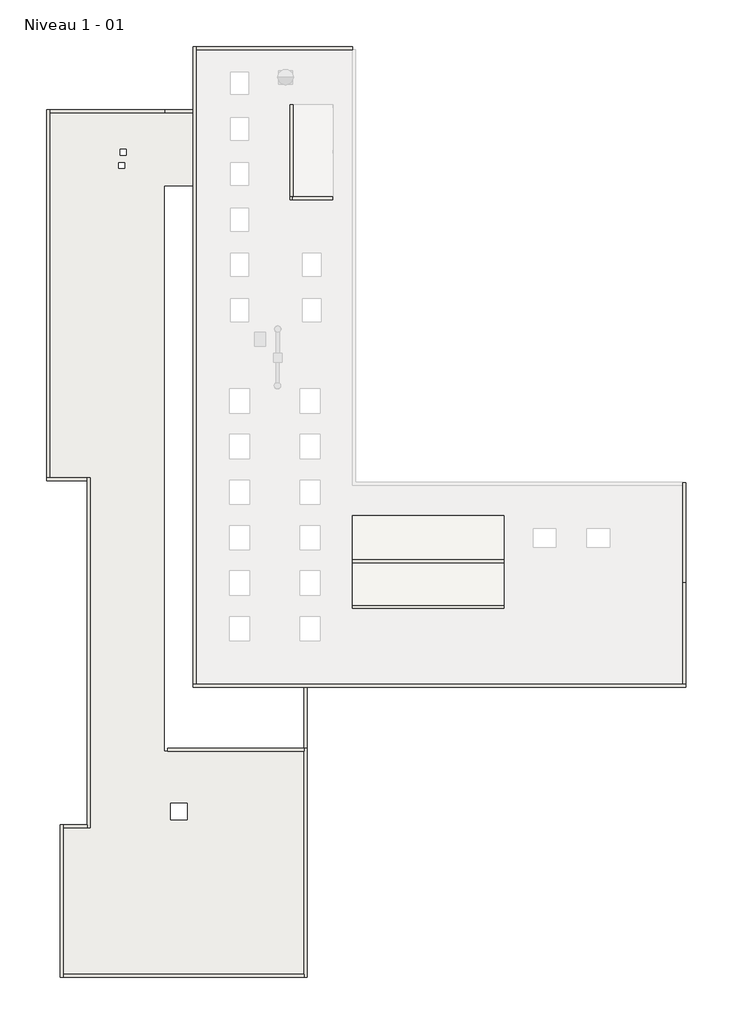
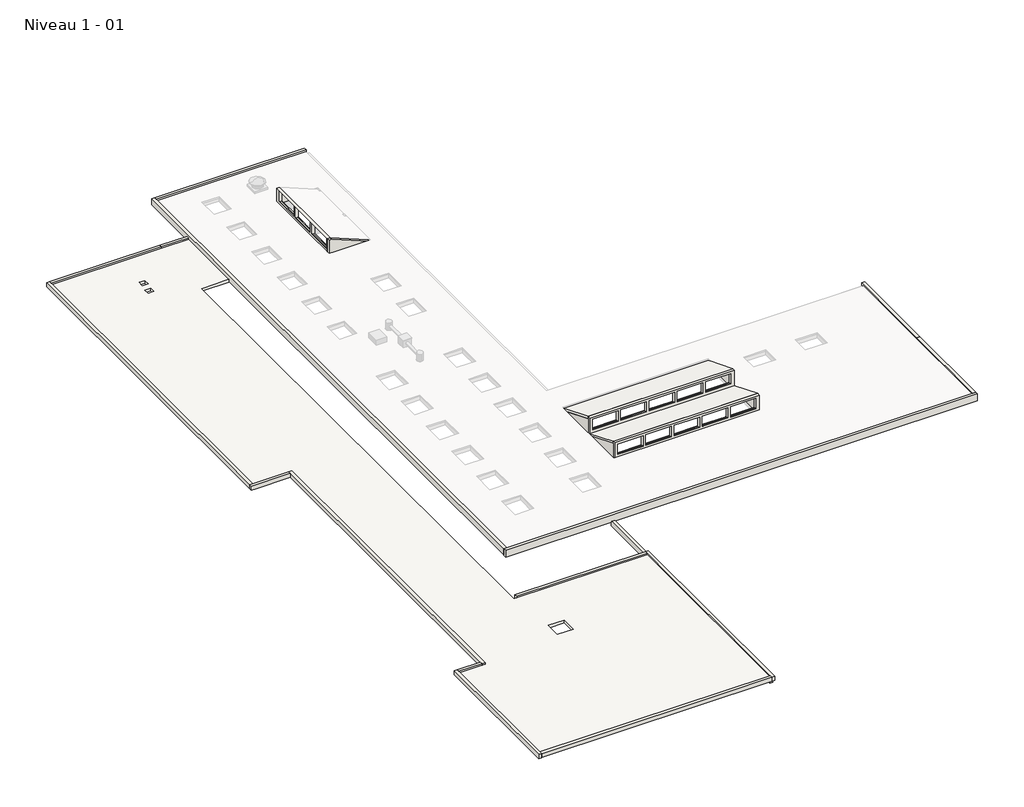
# One storey, part 1 of 3: 25 walls, 3 slabs.
"""IFC4 building model written with IfcOpenShell, lengths in millimetres."""

from ifc_helpers import new_model, si_unit, frame, origin, place, context, project, spatial, polyline, outline, extrude, faceted_brep, element, save

model = new_model("IFC4")

# Units and contexts
model_context = context("Model", 3, world=origin())
ifc_project = project(units=[si_unit("LENGTHUNIT", "METRE", prefix="MILLI")], contexts=[model_context])

# Site, building, storey
site = spatial("IfcSite", under=ifc_project)
building = spatial("IfcBuilding", under=site)
storey = spatial("IfcBuildingStorey", under=building, Name="Niveau 1 - 01", Elevation=3953.3082742)

# Slabs
placement = place(None, origin())
element("IfcSlab", 1, ObjectType="Dalle béton 200mm", at=placement, inside=storey, context=model_context, shape_type="SweptSolid", body=[
    extrude(outline(polyline([(-29023.0967815, -38759.0543071), (-29023.0967815, -53501.1523244), (-44941.7005236, -53501.1523244), (-44941.7005236, -43817.1378766), (-43142.9002047, -43817.1378746), (-43142.9002047, -20666.6974188), (-45839.2374821, -20666.6974188), (-45839.2374821, 3434.6445068), (-36343.9891745, 3434.6445068), (-36343.9891745, -1391.0), (-38243.9891749, -1391.0), (-38243.9891749, -38759.0543071), (-29023.0967815, -38759.0543071)]), holes=[polyline([(-37834.5797272, -42192.9977645), (-37834.5797272, -43292.9977645), (-36734.5797272, -43292.9977645), (-36734.5797272, -42192.9977645), (-37834.5797272, -42192.9977645)]), polyline([(-41152.5123026, 1018.8568888), (-41152.5123026, 628.8568889), (-40762.5123025, 628.8568889), (-40762.5123025, 1018.8568888), (-41152.5123026, 1018.8568888)]), polyline([(-41252.5123026, 158.8568888), (-41252.5123026, -231.1431111), (-40862.5123025, -231.1431111), (-40862.5123025, 158.8568888), (-41252.5123026, 158.8568888)])]), frame((0.0, 0.0, 3653.3082742), z_axis=(0.0, 0.0, 1.0), x_axis=(1.0, 0.0, 0.0)), (0.0, 0.0, 1.0), 200.0),
])
element("IfcSlab", 2, ObjectType="Béton sur place 150mm", at=placement, inside=storey, context=model_context, shape_type="Brep", body=[
    faceted_brep([(-15797.6697002, -26298.571453, 3844.3617374), (-15797.6697002, -26568.2235942, 3953.3082742), (-15797.6697002, -29088.571453, 4971.5949074), (-15997.6697002, -29088.571453, 4971.5949074), (-25593.9891728, -29088.571453, 4971.5949074), (-25793.9891728, -29088.571453, 4971.5949074), (-25793.9891728, -26568.2235942, 3953.3082742), (-25793.9891728, -26298.571453, 3844.3617374), (-15797.6697002, -26298.571453, 4006.1419488), (-25793.9891728, -26298.571453, 4006.1419488), (-25793.9891728, -29088.571453, 5133.3751188), (-15797.6697002, -29088.571453, 5133.3751188)], [[[0, 1, 2, 3, 4, 5, 6, 7]], [[8, 9, 10, 11]], [[2, 1, 0, 8, 11]], [[5, 4, 3, 2, 11, 10]], [[7, 6, 5, 10, 9]], [[0, 7, 9, 8]]]),
])
element("IfcSlab", 3, ObjectType="Béton sur place 150mm", at=placement, inside=storey, context=model_context, shape_type="Brep", body=[
    faceted_brep([(-15797.6697002, -23168.571453, 3787.7980657), (-15797.6697002, -23578.2235942, 3953.3082742), (-15797.6697002, -26098.571453, 4971.5949074), (-15997.6697002, -26098.571453, 4971.5949074), (-25593.9891728, -26098.571453, 4971.5949074), (-25793.9891728, -26098.571453, 4971.5949074), (-25793.9891728, -23578.2235942, 3953.3082742), (-25793.9891728, -23168.571453, 3787.7980657), (-15797.6697002, -23168.571453, 3949.5782771), (-25793.9891728, -23168.571453, 3949.5782771), (-25793.9891728, -23177.8035198, 3953.3082742), (-25793.9891728, -26098.571453, 5133.3751188), (-15797.6697002, -26098.571453, 5133.3751188), (-15797.6697002, -23177.8035198, 3953.3082742)], [[[0, 1, 2, 3, 4, 5, 6, 7]], [[8, 9, 10, 11, 12, 13]], [[2, 1, 0, 8, 13, 12]], [[5, 4, 3, 2, 12, 11]], [[7, 6, 5, 11, 10, 9]], [[0, 7, 9, 8]]]),
])

# Walls
element("IfcWall", 4, ObjectType="Ext. Voile BA 200", at=placement, inside=storey, context=model_context, shape_type="Brep", body=[
    faceted_brep([(-25793.9891728, -29288.571453, 3953.3082742), (-15797.6697002, -29288.571453, 3953.3082742), (-15797.6697002, -29288.571453, 5132.7489541), (-25793.9891728, -29288.571453, 5132.7489541), (-23833.9891728, -29288.571453, 4971.8727639), (-23833.9891728, -29288.571453, 4221.8727639), (-25583.9891728, -29288.571453, 4221.8727639), (-25583.9891728, -29288.571453, 4971.8727639), (-21883.9891728, -29288.571453, 4971.8727639), (-21883.9891728, -29288.571453, 4221.8727639), (-23633.9891728, -29288.571453, 4221.8727639), (-23633.9891728, -29288.571453, 4971.8727639), (-19933.9891728, -29288.571453, 4971.8727639), (-19933.9891728, -29288.571453, 4221.8727639), (-21683.9891728, -29288.571453, 4221.8727639), (-21683.9891728, -29288.571453, 4971.8727639), (-17783.9891728, -29288.571453, 4221.8727639), (-17783.9891728, -29288.571453, 4971.8727639), (-16033.9891728, -29288.571453, 4971.8727639), (-16033.9891728, -29288.571453, 4221.8727639), (-19733.9891728, -29288.571453, 4221.8727639), (-19733.9891728, -29288.571453, 4971.8727639), (-17983.9891728, -29288.571453, 4971.8727639), (-17983.9891728, -29288.571453, 4221.8727639), (-15797.6697002, -29088.571453, 3953.3082742), (-15997.6697002, -29088.571453, 3953.3082742), (-25593.9891728, -29088.571453, 3953.3082742), (-25793.9891728, -29088.571453, 3953.3082742), (-25793.9891728, -29088.571453, 4971.5949074), (-25793.9891728, -29088.571453, 5132.7489541), (-15797.6697002, -29088.571453, 5132.7489541), (-15797.6697002, -29088.571453, 4971.5949074), (-23833.9891728, -29088.571453, 4201.8727639), (-23833.9891728, -29088.571453, 4971.8727639), (-25583.9891728, -29088.571453, 4971.8727639), (-25583.9891728, -29088.571453, 4201.8727639), (-21883.9891728, -29088.571453, 4201.8727639), (-21883.9891728, -29088.571453, 4971.8727639), (-23633.9891728, -29088.571453, 4971.8727639), (-23633.9891728, -29088.571453, 4201.8727639), (-19933.9891728, -29088.571453, 4201.8727639), (-19933.9891728, -29088.571453, 4971.8727639), (-21683.9891728, -29088.571453, 4971.8727639), (-21683.9891728, -29088.571453, 4201.8727639), (-17783.9891728, -29088.571453, 4971.8727639), (-17783.9891728, -29088.571453, 4201.8727639), (-16033.9891728, -29088.571453, 4201.8727639), (-16033.9891728, -29088.571453, 4971.8727639), (-19733.9891728, -29088.571453, 4971.8727639), (-19733.9891728, -29088.571453, 4201.8727639), (-17983.9891728, -29088.571453, 4201.8727639), (-17983.9891728, -29088.571453, 4971.8727639), (-23833.9891728, -29128.571453, 4201.8727639), (-23833.9891728, -29128.571453, 4186.8727639), (-23833.9891728, -29258.571453, 4186.8727639), (-23833.9891728, -29258.571453, 4221.8727639), (-25583.9891728, -29258.571453, 4221.8727639), (-25583.9891728, -29258.571453, 4186.8727639), (-25583.9891728, -29128.571453, 4186.8727639), (-25583.9891728, -29128.571453, 4201.8727639), (-21883.9891728, -29128.571453, 4201.8727639), (-21883.9891728, -29128.571453, 4186.8727639), (-21883.9891728, -29258.571453, 4186.8727639), (-21883.9891728, -29258.571453, 4221.8727639), (-23633.9891728, -29258.571453, 4221.8727639), (-23633.9891728, -29258.571453, 4186.8727639), (-23633.9891728, -29128.571453, 4186.8727639), (-23633.9891728, -29128.571453, 4201.8727639), (-19933.9891728, -29128.571453, 4201.8727639), (-19933.9891728, -29128.571453, 4186.8727639), (-19933.9891728, -29258.571453, 4186.8727639), (-19933.9891728, -29258.571453, 4221.8727639), (-21683.9891728, -29258.571453, 4221.8727639), (-21683.9891728, -29258.571453, 4186.8727639), (-21683.9891728, -29128.571453, 4186.8727639), (-21683.9891728, -29128.571453, 4201.8727639), (-16033.9891728, -29128.571453, 4201.8727639), (-16033.9891728, -29128.571453, 4186.8727639), (-16033.9891728, -29258.571453, 4186.8727639), (-16033.9891728, -29258.571453, 4221.8727639), (-17783.9891728, -29258.571453, 4221.8727639), (-17783.9891728, -29258.571453, 4186.8727639), (-17783.9891728, -29128.571453, 4186.8727639), (-17783.9891728, -29128.571453, 4201.8727639), (-17983.9891728, -29128.571453, 4201.8727639), (-17983.9891728, -29128.571453, 4186.8727639), (-17983.9891728, -29258.571453, 4186.8727639), (-17983.9891728, -29258.571453, 4221.8727639), (-19733.9891728, -29258.571453, 4221.8727639), (-19733.9891728, -29258.571453, 4186.8727639), (-19733.9891728, -29128.571453, 4186.8727639), (-19733.9891728, -29128.571453, 4201.8727639)], [[[0, 1, 2, 3], [4, 5, 6, 7], [8, 9, 10, 11], [12, 13, 14, 15], [16, 17, 18, 19], [20, 21, 22, 23]], [[24, 25, 26, 27, 28, 29, 30, 31], [32, 33, 34, 35], [36, 37, 38, 39], [40, 41, 42, 43], [44, 45, 46, 47], [48, 49, 50, 51]], [[1, 0, 27, 26, 25, 24]], [[3, 2, 30, 29]], [[0, 3, 29, 28, 27]], [[2, 1, 24, 31, 30]], [[4, 33, 32, 52, 53, 54, 55, 5]], [[6, 56, 57, 58, 59, 35, 34, 7]], [[5, 55, 56, 6]], [[55, 54, 57, 56]], [[54, 53, 58, 57]], [[53, 52, 59, 58]], [[52, 32, 35, 59]], [[33, 4, 7, 34]], [[8, 37, 36, 60, 61, 62, 63, 9]], [[10, 64, 65, 66, 67, 39, 38, 11]], [[9, 63, 64, 10]], [[63, 62, 65, 64]], [[62, 61, 66, 65]], [[61, 60, 67, 66]], [[60, 36, 39, 67]], [[37, 8, 11, 38]], [[12, 41, 40, 68, 69, 70, 71, 13]], [[14, 72, 73, 74, 75, 43, 42, 15]], [[13, 71, 72, 14]], [[71, 70, 73, 72]], [[70, 69, 74, 73]], [[69, 68, 75, 74]], [[68, 40, 43, 75]], [[41, 12, 15, 42]], [[18, 47, 46, 76, 77, 78, 79, 19]], [[16, 80, 81, 82, 83, 45, 44, 17]], [[19, 79, 80, 16]], [[79, 78, 81, 80]], [[78, 77, 82, 81]], [[77, 76, 83, 82]], [[76, 46, 45, 83]], [[47, 18, 17, 44]], [[22, 51, 50, 84, 85, 86, 87, 23]], [[20, 88, 89, 90, 91, 49, 48, 21]], [[23, 87, 88, 20]], [[87, 86, 89, 88]], [[86, 85, 90, 89]], [[85, 84, 91, 90]], [[84, 50, 49, 91]], [[51, 22, 21, 48]]]),
])
element("IfcWall", 5, ObjectType="Ext. Voile BA 200", at=placement, inside=storey, context=model_context, shape_type="SweptSolid", body=[
    extrude(outline(polyline([(-29088.571453, 3953.3082742), (-29088.571453, 4971.5949074), (-26568.2235942, 3953.3082742), (-29088.571453, 3953.3082742)])), frame((-15997.6697002, 0.0, 0.0), z_axis=(1.0, 0.0, 0.0), x_axis=(0.0, 1.0, 0.0)), (0.0, 0.0, 1.0), 200.0),
])
element("IfcWall", 6, ObjectType="Ext. Voile BA 200", at=placement, inside=storey, context=model_context, shape_type="SweptSolid", body=[
    extrude(outline(polyline([(-26568.2235942, 3953.3082742), (-29088.571453, 3953.3082742), (-29088.571453, 4971.5949074), (-26568.2235942, 3953.3082742)])), frame((-25793.9891728, 0.0, 0.0), z_axis=(1.0, 0.0, 0.0), x_axis=(0.0, 1.0, 0.0)), (0.0, 0.0, 1.0), 200.0),
])
element("IfcWall", 7, ObjectType="Ext. Voile BA 200", at=placement, inside=storey, context=model_context, shape_type="Brep", body=[
    faceted_brep([(-25793.9891728, -26298.571453, 3953.3082742), (-15797.6697002, -26298.571453, 3953.3082742), (-15797.6697002, -26298.571453, 5132.7489541), (-25793.9891728, -26298.571453, 5132.7489541), (-23833.9891728, -26298.571453, 4971.8727639), (-23833.9891728, -26298.571453, 4221.8727639), (-25583.9891728, -26298.571453, 4221.8727639), (-25583.9891728, -26298.571453, 4971.8727639), (-21883.9891728, -26298.571453, 4971.8727639), (-21883.9891728, -26298.571453, 4221.8727639), (-23633.9891728, -26298.571453, 4221.8727639), (-23633.9891728, -26298.571453, 4971.8727639), (-19933.9891728, -26298.571453, 4971.8727639), (-19933.9891728, -26298.571453, 4221.8727639), (-21683.9891728, -26298.571453, 4221.8727639), (-21683.9891728, -26298.571453, 4971.8727639), (-17783.9891728, -26298.571453, 4221.8727639), (-17783.9891728, -26298.571453, 4971.8727639), (-16033.9891728, -26298.571453, 4971.8727639), (-16033.9891728, -26298.571453, 4221.8727639), (-19733.9891728, -26298.571453, 4221.8727639), (-19733.9891728, -26298.571453, 4971.8727639), (-17983.9891728, -26298.571453, 4971.8727639), (-17983.9891728, -26298.571453, 4221.8727639), (-15797.6697002, -26098.571453, 3953.3082742), (-15997.6697002, -26098.571453, 3953.3082742), (-25593.9891728, -26098.571453, 3953.3082742), (-25793.9891728, -26098.571453, 3953.3082742), (-25793.9891728, -26098.571453, 4971.5949074), (-25793.9891728, -26098.571453, 5132.7489541), (-15797.6697002, -26098.571453, 5132.7489541), (-15797.6697002, -26098.571453, 4971.5949074), (-23833.9891728, -26098.571453, 4201.8727639), (-23833.9891728, -26098.571453, 4971.8727639), (-25583.9891728, -26098.571453, 4971.8727639), (-25583.9891728, -26098.571453, 4201.8727639), (-21883.9891728, -26098.571453, 4201.8727639), (-21883.9891728, -26098.571453, 4971.8727639), (-23633.9891728, -26098.571453, 4971.8727639), (-23633.9891728, -26098.571453, 4201.8727639), (-19933.9891728, -26098.571453, 4201.8727639), (-19933.9891728, -26098.571453, 4971.8727639), (-21683.9891728, -26098.571453, 4971.8727639), (-21683.9891728, -26098.571453, 4201.8727639), (-17783.9891728, -26098.571453, 4971.8727639), (-17783.9891728, -26098.571453, 4201.8727639), (-16033.9891728, -26098.571453, 4201.8727639), (-16033.9891728, -26098.571453, 4971.8727639), (-19733.9891728, -26098.571453, 4971.8727639), (-19733.9891728, -26098.571453, 4201.8727639), (-17983.9891728, -26098.571453, 4201.8727639), (-17983.9891728, -26098.571453, 4971.8727639), (-23833.9891728, -26138.571453, 4201.8727639), (-23833.9891728, -26138.571453, 4186.8727639), (-23833.9891728, -26268.571453, 4186.8727639), (-23833.9891728, -26268.571453, 4221.8727639), (-25583.9891728, -26268.571453, 4221.8727639), (-25583.9891728, -26268.571453, 4186.8727639), (-25583.9891728, -26138.571453, 4186.8727639), (-25583.9891728, -26138.571453, 4201.8727639), (-21883.9891728, -26138.571453, 4201.8727639), (-21883.9891728, -26138.571453, 4186.8727639), (-21883.9891728, -26268.571453, 4186.8727639), (-21883.9891728, -26268.571453, 4221.8727639), (-23633.9891728, -26268.571453, 4221.8727639), (-23633.9891728, -26268.571453, 4186.8727639), (-23633.9891728, -26138.571453, 4186.8727639), (-23633.9891728, -26138.571453, 4201.8727639), (-19933.9891728, -26138.571453, 4201.8727639), (-19933.9891728, -26138.571453, 4186.8727639), (-19933.9891728, -26268.571453, 4186.8727639), (-19933.9891728, -26268.571453, 4221.8727639), (-21683.9891728, -26268.571453, 4221.8727639), (-21683.9891728, -26268.571453, 4186.8727639), (-21683.9891728, -26138.571453, 4186.8727639), (-21683.9891728, -26138.571453, 4201.8727639), (-16033.9891728, -26138.571453, 4201.8727639), (-16033.9891728, -26138.571453, 4186.8727639), (-16033.9891728, -26268.571453, 4186.8727639), (-16033.9891728, -26268.571453, 4221.8727639), (-17783.9891728, -26268.571453, 4221.8727639), (-17783.9891728, -26268.571453, 4186.8727639), (-17783.9891728, -26138.571453, 4186.8727639), (-17783.9891728, -26138.571453, 4201.8727639), (-17983.9891728, -26138.571453, 4201.8727639), (-17983.9891728, -26138.571453, 4186.8727639), (-17983.9891728, -26268.571453, 4186.8727639), (-17983.9891728, -26268.571453, 4221.8727639), (-19733.9891728, -26268.571453, 4221.8727639), (-19733.9891728, -26268.571453, 4186.8727639), (-19733.9891728, -26138.571453, 4186.8727639), (-19733.9891728, -26138.571453, 4201.8727639)], [[[0, 1, 2, 3], [4, 5, 6, 7], [8, 9, 10, 11], [12, 13, 14, 15], [16, 17, 18, 19], [20, 21, 22, 23]], [[24, 25, 26, 27, 28, 29, 30, 31], [32, 33, 34, 35], [36, 37, 38, 39], [40, 41, 42, 43], [44, 45, 46, 47], [48, 49, 50, 51]], [[1, 0, 27, 26, 25, 24]], [[3, 2, 30, 29]], [[0, 3, 29, 28, 27]], [[2, 1, 24, 31, 30]], [[4, 33, 32, 52, 53, 54, 55, 5]], [[6, 56, 57, 58, 59, 35, 34, 7]], [[5, 55, 56, 6]], [[55, 54, 57, 56]], [[54, 53, 58, 57]], [[53, 52, 59, 58]], [[52, 32, 35, 59]], [[33, 4, 7, 34]], [[8, 37, 36, 60, 61, 62, 63, 9]], [[10, 64, 65, 66, 67, 39, 38, 11]], [[9, 63, 64, 10]], [[63, 62, 65, 64]], [[62, 61, 66, 65]], [[61, 60, 67, 66]], [[60, 36, 39, 67]], [[37, 8, 11, 38]], [[12, 41, 40, 68, 69, 70, 71, 13]], [[14, 72, 73, 74, 75, 43, 42, 15]], [[13, 71, 72, 14]], [[71, 70, 73, 72]], [[70, 69, 74, 73]], [[69, 68, 75, 74]], [[68, 40, 43, 75]], [[41, 12, 15, 42]], [[18, 47, 46, 76, 77, 78, 79, 19]], [[16, 80, 81, 82, 83, 45, 44, 17]], [[19, 79, 80, 16]], [[79, 78, 81, 80]], [[78, 77, 82, 81]], [[77, 76, 83, 82]], [[76, 46, 45, 83]], [[47, 18, 17, 44]], [[22, 51, 50, 84, 85, 86, 87, 23]], [[20, 88, 89, 90, 91, 49, 48, 21]], [[23, 87, 88, 20]], [[87, 86, 89, 88]], [[86, 85, 90, 89]], [[85, 84, 91, 90]], [[84, 50, 49, 91]], [[51, 22, 21, 48]]]),
])
element("IfcWall", 8, ObjectType="Ext. Voile BA 200", at=placement, inside=storey, context=model_context, shape_type="SweptSolid", body=[
    extrude(outline(polyline([(-26098.571453, 3953.3082742), (-26098.571453, 4971.5949074), (-23578.2235942, 3953.3082742), (-26098.571453, 3953.3082742)])), frame((-15997.6697002, 0.0, 0.0), z_axis=(1.0, 0.0, 0.0), x_axis=(0.0, 1.0, 0.0)), (0.0, 0.0, 1.0), 200.0),
])
element("IfcWall", 9, ObjectType="Ext. Voile BA 200", at=placement, inside=storey, context=model_context, shape_type="SweptSolid", body=[
    extrude(outline(polyline([(-23578.2235942, 3953.3082742), (-26098.571453, 3953.3082742), (-26098.571453, 4971.5949074), (-23578.2235942, 3953.3082742)])), frame((-25793.9891728, 0.0, 0.0), z_axis=(1.0, 0.0, 0.0), x_axis=(0.0, 1.0, 0.0)), (0.0, 0.0, 1.0), 200.0),
])
element("IfcWall", 10, ObjectType="Ext. Voile BA 200", at=placement, inside=storey, context=model_context, shape_type="Brep", body=[
    faceted_brep([(-29943.5797272, 3982.177026, 3953.3082742), (-29943.5797272, -2092.822974, 3953.3082742), (-29943.5797272, -2092.822974, 5022.7489541), (-29943.5797272, 3982.177026, 5022.7489541), (-29943.5797272, 1942.177026, 4971.8727639), (-29943.5797272, 1942.177026, 4221.8727639), (-29943.5797272, 3692.177026, 4221.8727639), (-29943.5797272, 3692.177026, 4971.8727639), (-29943.5797272, -7.822974, 4971.8727639), (-29943.5797272, -7.822974, 4221.8727639), (-29943.5797272, 1742.177026, 4221.8727639), (-29943.5797272, 1742.177026, 4971.8727639), (-29943.5797272, -1957.822974, 4971.8727639), (-29943.5797272, -1957.822974, 4221.8727639), (-29943.5797272, -207.822974, 4221.8727639), (-29943.5797272, -207.822974, 4971.8727639), (-29743.5797272, -2092.822974, 3953.3082742), (-29743.5797272, 3782.177026, 3953.3082742), (-29743.5797272, 3982.177026, 3953.3082742), (-29743.5797272, 3982.177026, 4851.5949074), (-29743.5797272, 3982.177026, 5022.7489541), (-29743.5797272, -2092.822974, 5022.7489541), (-29743.5797272, 1942.177026, 4201.8727639), (-29743.5797272, 1942.177026, 4971.8727639), (-29743.5797272, 3692.177026, 4971.8727639), (-29743.5797272, 3692.177026, 4201.8727639), (-29743.5797272, -7.822974, 4201.8727639), (-29743.5797272, -7.822974, 4971.8727639), (-29743.5797272, 1742.177026, 4971.8727639), (-29743.5797272, 1742.177026, 4201.8727639), (-29743.5797272, -1957.822974, 4201.8727639), (-29743.5797272, -1957.822974, 4971.8727639), (-29743.5797272, -207.822974, 4971.8727639), (-29743.5797272, -207.822974, 4201.8727639), (-29766.7807836, -2092.822974, 5022.7489541), (-29783.5797272, 1942.177026, 4201.8727639), (-29783.5797272, 1942.177026, 4186.8727639), (-29913.5797272, 1942.177026, 4186.8727639), (-29913.5797272, 1942.177026, 4221.8727639), (-29913.5797272, 3692.177026, 4221.8727639), (-29913.5797272, 3692.177026, 4186.8727639), (-29783.5797272, 3692.177026, 4186.8727639), (-29783.5797272, 3692.177026, 4201.8727639), (-29783.5797272, -7.822974, 4201.8727639), (-29783.5797272, -7.822974, 4186.8727639), (-29913.5797272, -7.822974, 4186.8727639), (-29913.5797272, -7.822974, 4221.8727639), (-29913.5797272, 1742.177026, 4221.8727639), (-29913.5797272, 1742.177026, 4186.8727639), (-29783.5797272, 1742.177026, 4186.8727639), (-29783.5797272, 1742.177026, 4201.8727639), (-29783.5797272, -1957.822974, 4201.8727639), (-29783.5797272, -1957.822974, 4186.8727639), (-29913.5797272, -1957.822974, 4186.8727639), (-29913.5797272, -1957.822974, 4221.8727639), (-29913.5797272, -207.822974, 4221.8727639), (-29913.5797272, -207.822974, 4186.8727639), (-29783.5797272, -207.822974, 4186.8727639), (-29783.5797272, -207.822974, 4201.8727639)], [[[0, 1, 2, 3], [4, 5, 6, 7], [8, 9, 10, 11], [12, 13, 14, 15]], [[16, 17, 18, 19, 20, 21], [22, 23, 24, 25], [26, 27, 28, 29], [30, 31, 32, 33]], [[1, 0, 18, 17, 16]], [[3, 2, 34, 21, 20]], [[0, 3, 20, 19, 18]], [[4, 23, 22, 35, 36, 37, 38, 5]], [[6, 39, 40, 41, 42, 25, 24, 7]], [[5, 38, 39, 6]], [[38, 37, 40, 39]], [[37, 36, 41, 40]], [[36, 35, 42, 41]], [[35, 22, 25, 42]], [[23, 4, 7, 24]], [[8, 27, 26, 43, 44, 45, 46, 9]], [[10, 47, 48, 49, 50, 29, 28, 11]], [[9, 46, 47, 10]], [[46, 45, 48, 47]], [[45, 44, 49, 48]], [[44, 43, 50, 49]], [[43, 26, 29, 50]], [[27, 8, 11, 28]], [[12, 31, 30, 51, 52, 53, 54, 13]], [[14, 55, 56, 57, 58, 33, 32, 15]], [[13, 54, 55, 14]], [[54, 53, 56, 55]], [[53, 52, 57, 56]], [[52, 51, 58, 57]], [[51, 30, 33, 58]], [[31, 12, 15, 32]], [[2, 1, 16, 21, 34]]]),
])
element("IfcWall", 11, ObjectType="Ext. Voile BA 200", at=placement, inside=storey, context=model_context, shape_type="SweptSolid", body=[
    extrude(outline(polyline([(3953.3082742, -29743.5797272), (3953.3082742, -27520.2422908), (4851.5949074, -29743.5797272), (3953.3082742, -29743.5797272)])), frame((0.0, 3782.177026, 0.0), z_axis=(0.0, 1.0, 0.0), x_axis=(0.0, 0.0, 1.0)), (0.0, 0.0, 1.0), 200.0),
])
element("IfcWall", 12, ObjectType="Ext. Voile BA 200", at=placement, inside=storey, context=model_context, shape_type="Brep", body=[
    faceted_brep([(-29943.5797272, -2292.822974, 3953.3082742), (-27119.8222164, -2292.822974, 3953.3082742), (-29766.7807836, -2292.822974, 5022.7489541), (-29943.5797272, -2292.822974, 5022.7489541), (-29943.5797272, -2092.822974, 3953.3082742), (-29943.5797272, -2092.822974, 5022.7489541), (-29766.7807836, -2092.822974, 5022.7489541), (-27119.8222164, -2092.822974, 3953.3082742), (-29743.5797272, -2092.822974, 3953.3082742)], [[[0, 1, 2, 3]], [[4, 5, 6, 7, 8]], [[1, 0, 4, 8, 7]], [[2, 1, 7, 6]], [[3, 2, 6, 5]], [[0, 3, 5, 4]]]),
])
element("IfcWall", 13, ObjectType="Ext. Voile BA 200", at=placement, inside=storey, context=model_context, shape_type="Brep", body=[
    faceted_brep([(-28823.0967815, -53451.1523244, 3351.8727639), (-28823.0967815, -38659.0543071, 3351.8727639), (-28823.0967815, -38659.0543071, 3651.8727639), (-28823.0967815, -38559.0543071, 3651.8727639), (-28823.0967815, -38559.0543071, 3703.3082742), (-28823.0967815, -38559.0543071, 3953.3082742), (-28823.0967815, -53701.1523244, 3953.3082742), (-28823.0967815, -53701.1523244, 3651.8727639), (-28823.0967815, -53451.1523244, 3651.8727639), (-29023.0967815, -53451.1523244, 3351.8727639), (-29023.0967815, -53451.1523244, 3651.8727639), (-29023.0967815, -53501.1523244, 3651.8727639), (-29023.0967815, -53701.1523244, 3651.8727639), (-29023.0967815, -53701.1523244, 3953.3082742), (-29023.0967815, -53501.1523244, 3953.3082742), (-29023.0967815, -38759.0543071, 3953.3082742), (-29023.0967815, -38559.0543071, 3953.3082742), (-29023.0967815, -38559.0543071, 3703.3082742), (-29023.0967815, -38559.0543071, 3651.8727639), (-29023.0967815, -38659.0543071, 3651.8727639), (-29023.0967815, -38659.0543071, 3351.8727639), (-29023.0967815, -38859.0543071, 3351.8727639), (-29023.0967815, -46095.9676203, 3351.8727639), (-29023.0967815, -46165.9676203, 3351.8727639), (-29023.0967815, -46674.4568753, 3351.8727639), (-29023.0967815, -46874.4568753, 3351.8727639), (-29023.0967815, -49146.6174839, 3351.8727639), (-29023.0967815, -49246.6174839, 3351.8727639)], [[[0, 1, 2, 3, 4, 5, 6, 7, 8]], [[9, 10, 11, 12, 13, 14, 15, 16, 17, 18, 19, 20, 21, 22, 23, 24, 25, 26, 27]], [[1, 0, 9, 27, 26, 25, 24, 23, 22, 21, 20]], [[6, 5, 16, 15, 14, 13]], [[2, 1, 20, 19]], [[18, 3, 2, 19]], [[3, 18, 17, 16, 5, 4]], [[7, 12, 11, 10, 8]], [[0, 8, 10, 9]], [[7, 6, 13, 12]]]),
])
element("IfcWall", 14, ObjectType="Ext. Voile BA 200", at=placement, inside=storey, context=model_context, shape_type="Brep", body=[
    faceted_brep([(-29023.0967815, -53501.1523244, 3651.8727639), (-44941.7005236, -53501.1523244, 3651.8727639), (-44941.7005236, -53501.1523244, 3953.3082742), (-29023.0967815, -53501.1523244, 3953.3082742), (-29023.0967815, -53701.1523244, 3651.8727639), (-29023.0967815, -53701.1523244, 3953.3082742), (-44941.7005236, -53701.1523244, 3953.3082742), (-44941.7005236, -53701.1523244, 3651.8727639), (-44891.7005236, -53701.1523244, 3651.8727639)], [[[0, 1, 2, 3]], [[4, 5, 6, 7, 8]], [[1, 0, 4, 8, 7]], [[3, 2, 6, 5]], [[2, 1, 7, 6]], [[0, 3, 5, 4]]]),
])
element("IfcWall", 15, ObjectType="Ext. Voile BA 200", at=placement, inside=storey, context=model_context, shape_type="Brep", body=[
    faceted_brep([(-44941.7005236, -53701.1523244, 3651.8727639), (-44941.7005236, -53501.1523244, 3651.8727639), (-44941.7005236, -43817.1378766, 3651.8727639), (-44941.7005236, -43617.1378766, 3651.8727639), (-44941.7005236, -43617.1378766, 3953.3082742), (-44941.7005236, -43817.1378766, 3953.3082742), (-44941.7005236, -53501.1523244, 3953.3082742), (-44941.7005236, -53701.1523244, 3953.3082742), (-45141.7005236, -53701.1523244, 3651.8727639), (-45141.7005236, -53701.1523244, 3953.3082742), (-45141.7005236, -43617.1378768, 3953.3082742), (-45141.7005236, -43617.1378768, 3651.8727639), (-45141.7005236, -43867.1378768, 3651.8727639)], [[[0, 1, 2, 3, 4, 5, 6, 7]], [[8, 9, 10, 11, 12]], [[3, 2, 1, 0, 8, 12, 11]], [[7, 6, 5, 4, 10, 9]], [[0, 7, 9, 8]], [[4, 3, 11, 10]]]),
])
element("IfcWall", 16, ObjectType="Ext. Voile BA 200", at=placement, inside=storey, context=model_context, shape_type="Brep", body=[
    faceted_brep([(-43142.9002047, -43817.1378746, 3651.8727639), (-43142.9002047, -20666.6974201, 3651.8727639), (-43142.9002047, -20666.6974201, 3953.3082742), (-43142.9002047, -43817.1378746, 3953.3082742), (-43342.9002047, -43817.1378748, 3651.8727639), (-43342.9002047, -43817.1378748, 3953.3082742), (-43342.9002047, -43617.1378748, 3953.3082742), (-43342.9002047, -20866.6974201, 3953.3082742), (-43342.9002047, -20666.6974201, 3953.3082742), (-43342.9002047, -20666.6974201, 3651.8727639), (-43342.9002047, -20866.6974201, 3651.8727639), (-43342.9002047, -43617.1378748, 3651.8727639)], [[[0, 1, 2, 3]], [[4, 5, 6, 7, 8, 9, 10, 11]], [[1, 0, 4, 11, 10, 9]], [[3, 2, 8, 7, 6, 5]], [[2, 1, 9, 8]], [[0, 3, 5, 4]]]),
])
element("IfcWall", 17, ObjectType="Ext. Voile BA 200", at=placement, inside=storey, context=model_context, shape_type="SweptSolid", body=[
    extrude(outline(polyline([(-43342.9002047, -43817.1378748), (-44941.7005236, -43817.1378766), (-44941.7005236, -43617.1378766), (-43342.9002047, -43617.1378748), (-43342.9002047, -43817.1378748)])), frame((0.0, 0.0, 3651.8727639), z_axis=(0.0, 0.0, 1.0), x_axis=(1.0, 0.0, 0.0)), (0.0, 0.0, 1.0), 301.4355104),
])
element("IfcWall", 18, ObjectType="Ext. Voile BA 200", at=placement, inside=storey, context=model_context, shape_type="Brep", body=[
    faceted_brep([(-46039.2374821, -20866.6974201, 3651.8727639), (-45789.2374821, -20866.6974201, 3651.8727639), (-43342.9002047, -20866.6974201, 3651.8727639), (-43342.9002047, -20866.6974201, 3953.3082742), (-46039.2374821, -20866.6974201, 3953.3082742), (-46039.2374821, -20666.6974201, 3651.8727639), (-46039.2374821, -20666.6974201, 3953.3082742), (-45839.2374821, -20666.6974201, 3953.3082742), (-43342.9002047, -20666.6974201, 3953.3082742), (-43342.9002047, -20666.6974201, 3651.8727639), (-45839.2374821, -20666.6974201, 3651.8727639)], [[[0, 1, 2, 3, 4]], [[5, 6, 7, 8, 9, 10]], [[2, 1, 0, 5, 10, 9]], [[4, 3, 8, 7, 6]], [[0, 4, 6, 5]], [[3, 2, 9, 8]]]),
])
element("IfcWall", 19, ObjectType="Ext. Voile BA 200", at=placement, inside=storey, context=model_context, shape_type="Brep", body=[
    faceted_brep([(-46039.2374821, 3634.6445068, 3651.8727639), (-46039.2374821, -20666.6974201, 3651.8727639), (-46039.2374821, -20666.6974201, 3953.3082742), (-46039.2374821, 3634.6445068, 3953.3082742), (-45839.2374821, 3634.6445068, 3651.8727639), (-45839.2374821, 3634.6445068, 3953.3082742), (-45839.2374821, 3434.6445068, 3953.3082742), (-45839.2374821, -20666.6974201, 3953.3082742), (-45839.2374821, -20666.6974201, 3651.8727639), (-45839.2374821, -1481.0175877, 3651.8727639), (-45839.2374821, -1381.0175877, 3651.8727639), (-45839.2374821, 3434.6445068, 3651.8727639)], [[[0, 1, 2, 3]], [[4, 5, 6, 7, 8, 9, 10, 11]], [[1, 0, 4, 11, 10, 9, 8]], [[3, 2, 7, 6, 5]], [[2, 1, 8, 7]], [[0, 3, 5, 4]]]),
])
element("IfcWall", 20, ObjectType="Ext. Voile BA 200", at=placement, inside=storey, context=model_context, shape_type="Brep", body=[
    faceted_brep([(-45839.2374821, 3434.6445068, 3651.8727639), (-38223.9891755, 3434.6445068, 3651.8727639), (-38223.9891755, 3434.6445068, 3953.3082742), (-45839.2374821, 3434.6445068, 3953.3082742), (-45839.2374821, 3634.6445068, 3651.8727639), (-45839.2374821, 3634.6445068, 3953.3082742), (-38223.9891755, 3634.6445068, 3953.3082742), (-38223.9891755, 3634.6445068, 3651.8727639), (-45789.2374821, 3634.6445068, 3651.8727639)], [[[0, 1, 2, 3]], [[4, 5, 6, 7, 8]], [[1, 0, 4, 8, 7]], [[2, 1, 7, 6]], [[3, 2, 6, 5]], [[0, 3, 5, 4]]]),
])
element("IfcWall", 21, ObjectType="Ext. Voile BA 200", at=placement, inside=storey, context=model_context, shape_type="Brep", body=[
    faceted_brep([(-29023.0967815, -38559.0543071, 3953.3082742), (-29023.0967815, -38559.0543071, 3651.8727639), (-38043.9891749, -38559.0543071, 3651.8727639), (-38043.9891749, -38559.0543071, 3953.3082742), (-29023.0967815, -38759.0543071, 3651.8727639), (-29023.0967815, -38759.0543071, 3953.3082742), (-38043.9891749, -38759.0543071, 3953.3082742), (-38043.9891749, -38759.0543071, 3653.3082742), (-38043.9891749, -38759.0543071, 3651.8727639), (-29023.0967815, -38659.0543071, 3651.8727639), (-38043.9891749, -38659.0543071, 3651.8727639)], [[[0, 1, 2, 3]], [[4, 5, 6, 7, 8]], [[2, 1, 9, 4, 8, 10]], [[0, 3, 6, 5]], [[2, 10, 8, 7, 6, 3]], [[0, 5, 4, 9, 1]]]),
])
element("IfcWall", 22, ObjectType="Ext. Voile BA 200", at=placement, inside=storey, context=model_context, shape_type="Brep", body=[
    faceted_brep([(-28823.0967815, -38659.0543071, 3351.8727639), (-28823.0967815, -34509.0543071, 3351.8727639), (-28823.0967815, -34459.0543071, 3351.8727639), (-28823.0967815, -34459.0543071, 3703.3082742), (-28823.0967815, -38559.0543071, 3703.3082742), (-28823.0967815, -38559.0543071, 3651.8727639), (-28823.0967815, -38659.0543071, 3651.8727639), (-29023.0967815, -38659.0543071, 3351.8727639), (-29023.0967815, -38659.0543071, 3651.8727639), (-29023.0967815, -38559.0543071, 3651.8727639), (-29023.0967815, -38559.0543071, 3703.3082742), (-29023.0967815, -34459.0543071, 3703.3082742), (-29023.0967815, -34459.0543071, 3351.8727639), (-29023.0967815, -38559.0543071, 3351.8727639)], [[[0, 1, 2, 3, 4, 5, 6]], [[7, 8, 9, 10, 11, 12, 13]], [[2, 1, 0, 7, 13, 12]], [[3, 2, 12, 11]], [[4, 3, 11, 10]], [[0, 6, 8, 7]], [[5, 9, 8, 6]], [[5, 4, 10, 9]]]),
])
element("IfcWall", 23, ObjectType="Ext. Voile BA 200", at=placement, inside=storey, context=model_context, shape_type="Brep", body=[
    faceted_brep([(-36343.9891745, -34509.054307, 3653.3082742), (-28948.0967815, -34509.054307, 3653.3082742), (-3745.9483345, -34509.054307, 3653.3082742), (-3745.9483345, -34509.054307, 4155.3159913), (-36343.9891745, -34509.054307, 4155.3159913), (-36343.9891745, -34309.054307, 3653.3082742), (-36343.9891745, -34309.054307, 3703.3082742), (-36343.9891745, -34309.054307, 4155.3159913), (-36143.9891745, -34309.054307, 4155.3159913), (-3945.9483345, -34309.054307, 4155.3159913), (-3745.9483345, -34309.054307, 4155.3159913), (-3745.9483345, -34309.054307, 3701.8727639), (-3745.9483345, -34309.054307, 3653.3082742), (-28948.0967815, -34309.054307, 3653.3082742)], [[[0, 1, 2, 3, 4]], [[5, 6, 7, 8, 9, 10, 11, 12, 13]], [[2, 1, 0, 5, 13, 12]], [[4, 3, 10, 9, 8, 7]], [[3, 2, 12, 11, 10]], [[0, 4, 7, 6, 5]]]),
])
element("IfcWall", 24, ObjectType="Ext. Voile BA 200", at=placement, inside=storey, context=model_context, shape_type="Brep", body=[
    faceted_brep([(-3745.9483345, -34309.054307, 3701.8727639), (-3745.9483345, -34259.054307, 3701.8727639), (-3745.9483345, -27717.519909, 3701.8727639), (-3745.9483345, -27617.519909, 3701.8727639), (-3745.9483345, -27617.519909, 4155.3159913), (-3745.9483345, -34309.054307, 4155.3159913), (-3945.9483345, -34309.054307, 3701.8727639), (-3945.9483345, -34309.054307, 3703.3082742), (-3945.9483345, -34309.054307, 4155.3159913), (-3945.9483345, -27617.519909, 4155.3159913), (-3945.9483345, -27617.519909, 3701.8727639), (-3945.9483345, -34259.054307, 3701.8727639)], [[[0, 1, 2, 3, 4, 5]], [[6, 7, 8, 9, 10, 11]], [[3, 2, 1, 0, 6, 11, 10]], [[4, 3, 10, 9]], [[5, 4, 9, 8]], [[0, 5, 8, 7, 6]]]),
])
element("IfcWall", 25, ObjectType="Ext. Voile BA 200", at=placement, inside=storey, context=model_context, shape_type="Brep", body=[
    faceted_brep([(-36143.9891745, -34309.054307, 3703.3082742), (-36143.9891745, 7622.6789506, 3703.3082742), (-36143.9891745, 7822.6789506, 3703.3082742), (-36143.9891745, 7822.6789506, 4155.3159913), (-36143.9891745, 7622.6789506, 4155.3159913), (-36143.9891745, -34309.054307, 4155.3159913), (-36343.9891745, -34309.054307, 3703.3082742), (-36343.9891745, -34309.054307, 4155.3159913), (-36343.9891745, 7822.6789506, 4155.3159913), (-36343.9891745, 7822.6789506, 3703.3082742), (-36343.9891745, 3334.6445068, 3703.3082742), (-36343.9891745, -14029.1151361, 3703.3082742)], [[[0, 1, 2, 3, 4, 5]], [[6, 7, 8, 9, 10, 11]], [[2, 1, 0, 6, 11, 10, 9]], [[5, 4, 3, 8, 7]], [[3, 2, 9, 8]], [[0, 5, 7, 6]]]),
])
element("IfcWall", 26, ObjectType="Ext. Voile BA 200", at=placement, inside=storey, context=model_context, shape_type="Brep", body=[
    faceted_brep([(-36143.9891745, 7622.6789506, 3703.3082742), (-25803.9891757, 7622.6789506, 3703.3082742), (-25803.9891757, 7622.6789506, 4155.3159913), (-36143.9891745, 7622.6789506, 4155.3159913), (-36143.9891745, 7622.6789506, 3953.3082742), (-36143.9891745, 7822.6789506, 3703.3082742), (-36143.9891745, 7822.6789506, 4155.3159913), (-25803.9891757, 7822.6789506, 4155.3159913), (-25803.9891757, 7822.6789506, 3703.3082742), (-36093.9891745, 7822.6789506, 3703.3082742)], [[[0, 1, 2, 3, 4]], [[5, 6, 7, 8, 9]], [[1, 0, 5, 9, 8]], [[2, 1, 8, 7]], [[3, 2, 7, 6]], [[0, 4, 3, 6, 5]]]),
])
element("IfcWall", 27, ObjectType="Ext. Voile BA 200", at=placement, inside=storey, context=model_context, shape_type="Brep", body=[
    faceted_brep([(-38223.9891755, 3434.6445068, 3953.3082742), (-38223.9891755, 3434.6445068, 3651.8727639), (-38223.9891755, 3434.6445068, 3008.9422678), (-36293.9891767, 3434.6445068, 3008.9422678), (-36293.9891767, 3434.6445068, 3953.3082742), (-38223.9891755, 3634.6445068, 3008.9422678), (-38223.9891755, 3634.6445068, 3651.8727639), (-38223.9891755, 3634.6445068, 3953.3082742), (-36293.9891767, 3634.6445068, 3953.3082742), (-36293.9891767, 3634.6445068, 3008.9422678), (-36343.9891745, 3634.6445068, 3008.9422678)], [[[0, 1, 2, 3, 4]], [[5, 6, 7, 8, 9, 10]], [[3, 2, 5, 10, 9]], [[4, 3, 9, 8]], [[0, 4, 8, 7]], [[0, 7, 6, 5, 2, 1]]]),
])
element("IfcWall", 28, ObjectType="Ext. Voile BA 200", at=placement, inside=storey, context=model_context, shape_type="SweptSolid", body=[
    extrude(outline(polyline([(-27517.519909, 3200.0), (-27517.519909, 3701.8727639), (-27617.519909, 3701.8727639), (-27617.519909, 4155.3159913), (-21006.2530701, 4155.3159913), (-21006.2530701, 3200.0), (-27517.519909, 3200.0)])), frame((-3945.9483345, 0.0, 0.0), z_axis=(1.0, 0.0, 0.0), x_axis=(0.0, 1.0, 0.0)), (0.0, 0.0, 1.0), 200.0),
])

save(model, "model.ifc")
